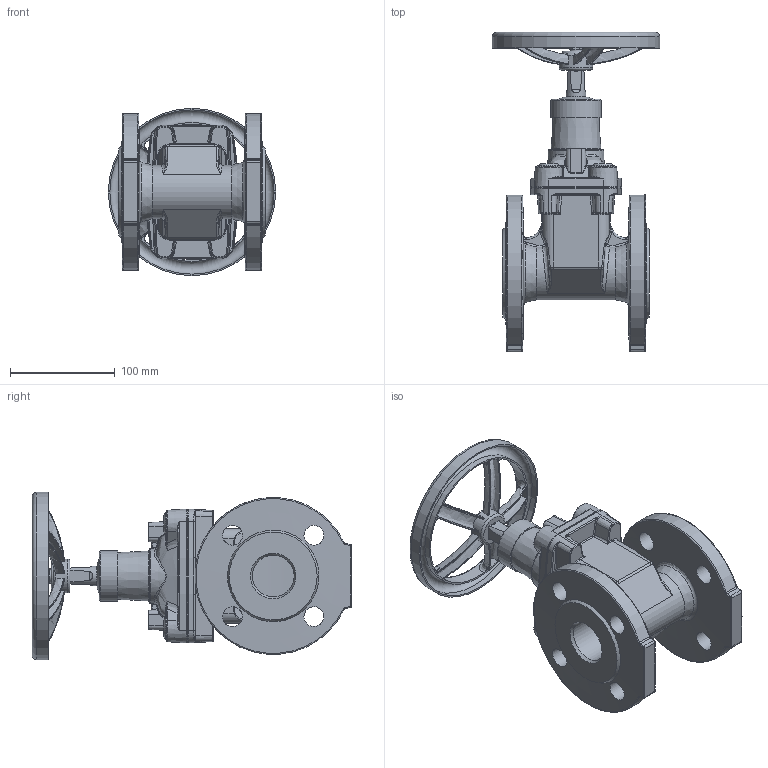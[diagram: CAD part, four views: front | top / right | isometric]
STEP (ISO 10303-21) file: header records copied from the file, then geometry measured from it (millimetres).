
FILE_DESCRIPTION (( 'STEP AP203' ), '1' );
FILE_NAME ('20.DN040_1.STEP', '2013-01-17T09:12:28', ( 'luca.saino' ), ( 'Hewlett-Packard Company' ), 'SwSTEP 2.0', 'SolidWorks 2012', '' );
FILE_SCHEMA (( 'CONFIG_CONTROL_DESIGN' ));
Length unit declared in the file: millimetre
Products named in the file (1): 20.DN040_1
Bounding box: 160 x 305.29 x 160 mm (x, y, z)
Volume: 1528368.6 mm3; surface area: 240676.9 mm2
Topology: 1 solids, 13 shells, 1090 faces, 2721 edges, 1633 vertices
Faces by surface type: plane 310, bspline 286, cylinder 250, torus 134, cone 90, sphere 20
Full cylindrical faces by diameter (mm): 5 x1, 6 x2, 6.4 x1, 6.5 x4, 8 x5, 8.5 x4, 10 x4, 11 x4, 12 x1, 16 x4, 18 x4, 19 x10, 21 x4, 32 x1, 40 x2, 48 x1, 130 x1, 133 x1, 157 x1, 160 x1
Entity records: 53938 total; most frequent: CARTESIAN_POINT 31173, ORIENTED_EDGE 4996, DIRECTION 4238, EDGE_CURVE 2498, AXIS2_PLACEMENT_3D 1730, VERTEX_POINT 1570, EDGE_LOOP 1270, FACE_OUTER_BOUND 1163
